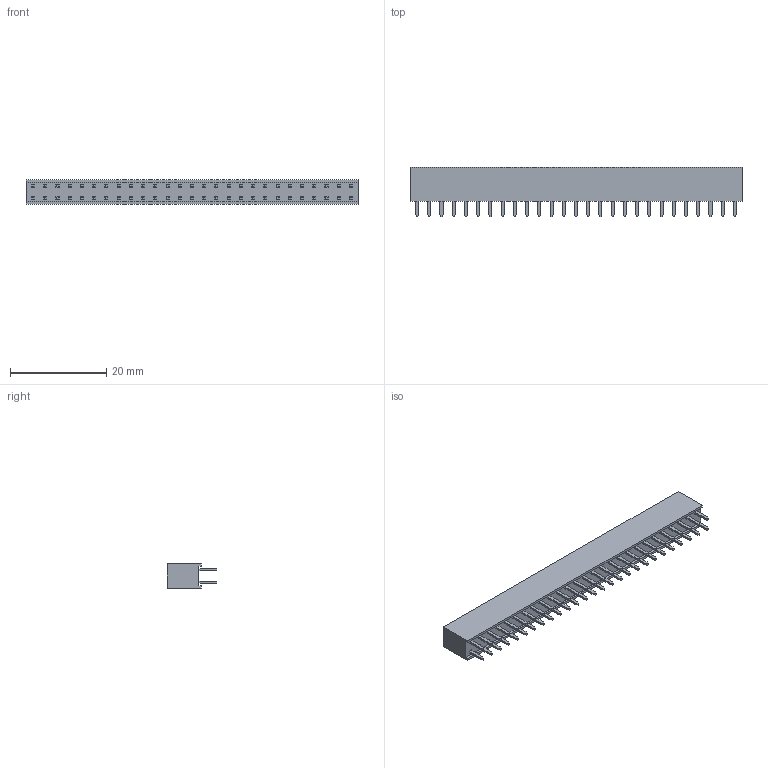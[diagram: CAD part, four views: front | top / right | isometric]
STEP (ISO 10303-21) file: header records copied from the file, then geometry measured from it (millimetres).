
FILE_DESCRIPTION (( 'STEP AP203' ), '1' );
FILE_NAME ('PM254-2-27-Z-7.1-XX(L10.3) (2.54双排 排母 直针 塑高7.1-HCTL).STEP', '2026-04-24T08:39:25', ( '' ), ( '' ), 'SwSTEP 2.0', 'SolidWorks 2025', '' );
FILE_SCHEMA (( 'CONFIG_CONTROL_DESIGN' ));
Length unit declared in the file: millimetre
Products named in the file (1): PM254-2-27-Z-7.1-XX(L10.3) (2.54双排 排母 直针 塑高7.1-HCTL)
Bounding box: 68.98 x 10.3 x 5 mm (x, y, z)
Volume: 2249.9 mm3; surface area: 3165.6 mm2
Topology: 1 solids, 1 shells, 874 faces, 2508 edges, 1528 vertices
Faces by surface type: plane 874
Entity records: 27905 total; most frequent: ORIENTED_EDGE 5016, CARTESIAN_POINT 4911, DIRECTION 4258, EDGE_CURVE 2508, LINE 2508, VECTOR 2508, VERTEX_POINT 1528, EDGE_LOOP 982
